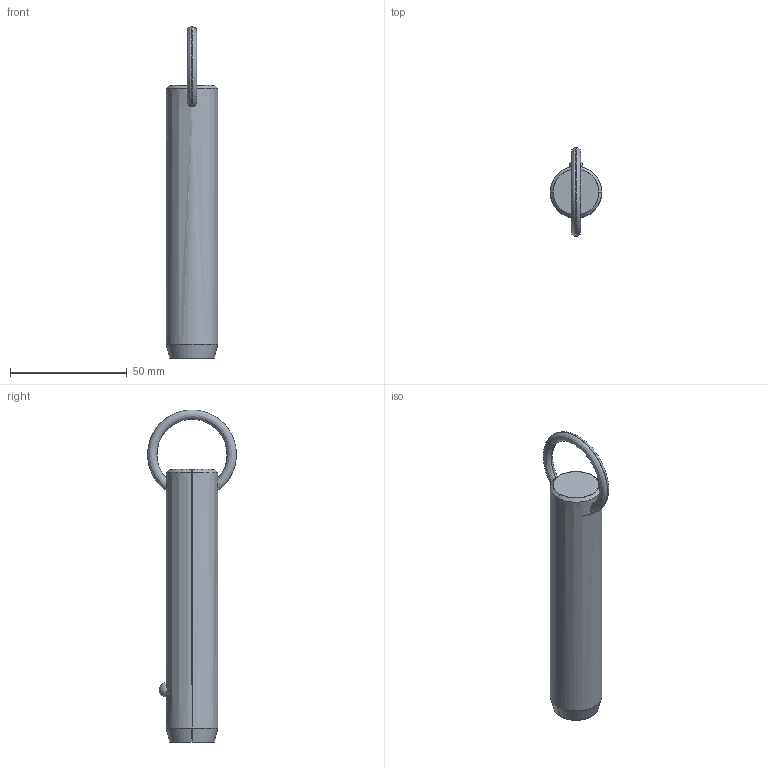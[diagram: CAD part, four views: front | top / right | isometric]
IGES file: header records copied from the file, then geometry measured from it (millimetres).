
Start section: SolidWorks IGES file using analytic representation for surfaces
Global section: file name: C:\Users\liam_\OneDrive\Documents\WORK\Work for WixRoyd\Job Files\J-00019 - Matt Davis CAD Checking\04. CAD Drawings\automotion20190605\P1250.2_v2\P1250.2_v2_20190729_IGES\P1250.087-310.igs; native system: SolidWorks 2017; preprocessor: SolidWorks 2017; author: liam_; date: 190730.000902; units: millimetre
Bounding box: 22.2 x 38.08 x 142.29 mm (x, y, z)
Surface area: 9796.8 mm2 (no closed solid volume)
Topology: 0 solids, 0 shells, 12 faces, 302 edges, 300 vertices
Faces by surface type: revolution 8, bspline 4
